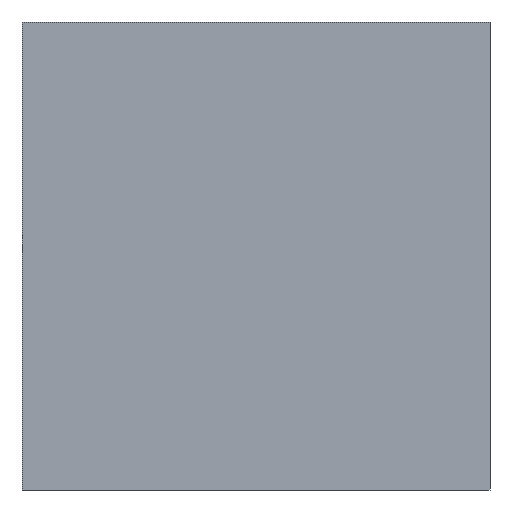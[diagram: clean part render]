
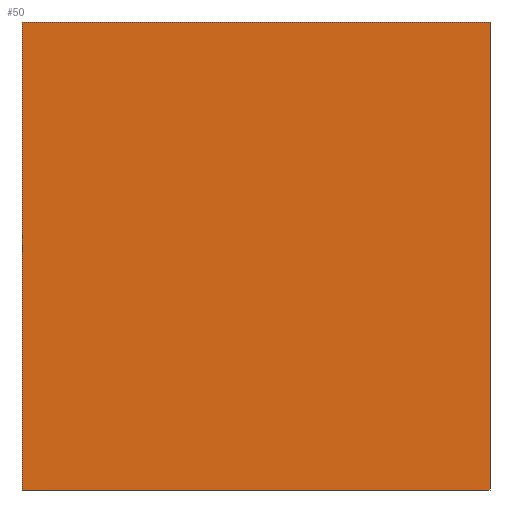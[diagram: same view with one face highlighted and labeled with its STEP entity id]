
A CAD part, left-side view. The second image highlights one B-rep face of the part: STEP entity #50.
In plain terms, the highlighted planar face has unit normal (-1, 0, 0).
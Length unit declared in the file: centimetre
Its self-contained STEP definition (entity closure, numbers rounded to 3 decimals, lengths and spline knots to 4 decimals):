
#30 = DIRECTION ( 'NONE',  ( 0., -1., 0. ) ) ;
#39 = VECTOR ( 'NONE', #308, 100. ) ;
#42 = DIRECTION ( 'NONE',  ( 1., 0., 0. ) ) ;
#46 = DIRECTION ( 'NONE',  ( 0., 0., -1. ) ) ;
#50 = ADVANCED_FACE ( 'NONE', ( #291 ), #253, .F. ) ;
#56 = CARTESIAN_POINT ( 'NONE',  ( 0., 1000., 1000. ) ) ;
#62 = CARTESIAN_POINT ( 'NONE',  ( 0., 0., 1000. ) ) ;
#73 = CARTESIAN_POINT ( 'NONE',  ( 0., 1000., 1000. ) ) ;
#88 = ORIENTED_EDGE ( 'NONE', *, *, #427, .F. ) ;
#91 = VERTEX_POINT ( 'NONE', #404 ) ;
#92 = LINE ( 'NONE', #233, #114 ) ;
#94 = ORIENTED_EDGE ( 'NONE', *, *, #279, .T. ) ;
#114 = VECTOR ( 'NONE', #351, 100. ) ;
#132 = CARTESIAN_POINT ( 'NONE',  ( 0., 0., 0. ) ) ;
#148 = EDGE_CURVE ( 'NONE', #385, #419, #387, .T. ) ;
#163 = CARTESIAN_POINT ( 'NONE',  ( 0., 1000., 1000. ) ) ;
#176 = VECTOR ( 'NONE', #315, 100. ) ;
#233 = CARTESIAN_POINT ( 'NONE',  ( 0., 1000., 0. ) ) ;
#243 = AXIS2_PLACEMENT_3D ( 'NONE', #73, #42, #46 ) ;
#249 = EDGE_LOOP ( 'NONE', ( #323, #406, #88, #94 ) ) ;
#253 = PLANE ( 'NONE',  #243 ) ;
#279 = EDGE_CURVE ( 'NONE', #91, #432, #363, .T. ) ;
#291 = FACE_OUTER_BOUND ( 'NONE', #249, .T. ) ;
#304 = CARTESIAN_POINT ( 'NONE',  ( 0., 1000., 0. ) ) ;
#308 = DIRECTION ( 'NONE',  ( 0., 0., -1. ) ) ;
#315 = DIRECTION ( 'NONE',  ( 0., 0., -1. ) ) ;
#323 = ORIENTED_EDGE ( 'NONE', *, *, #409, .T. ) ;
#339 = LINE ( 'NONE', #56, #376 ) ;
#351 = DIRECTION ( 'NONE',  ( 0., -1., 0. ) ) ;
#363 = LINE ( 'NONE', #163, #39 ) ;
#374 = CARTESIAN_POINT ( 'NONE',  ( 0., 0., 1000. ) ) ;
#376 = VECTOR ( 'NONE', #30, 100. ) ;
#385 = VERTEX_POINT ( 'NONE', #374 ) ;
#387 = LINE ( 'NONE', #62, #176 ) ;
#404 = CARTESIAN_POINT ( 'NONE',  ( 0., 1000., 1000. ) ) ;
#406 = ORIENTED_EDGE ( 'NONE', *, *, #148, .F. ) ;
#409 = EDGE_CURVE ( 'NONE', #432, #419, #92, .T. ) ;
#419 = VERTEX_POINT ( 'NONE', #132 ) ;
#427 = EDGE_CURVE ( 'NONE', #91, #385, #339, .T. ) ;
#432 = VERTEX_POINT ( 'NONE', #304 ) ;
